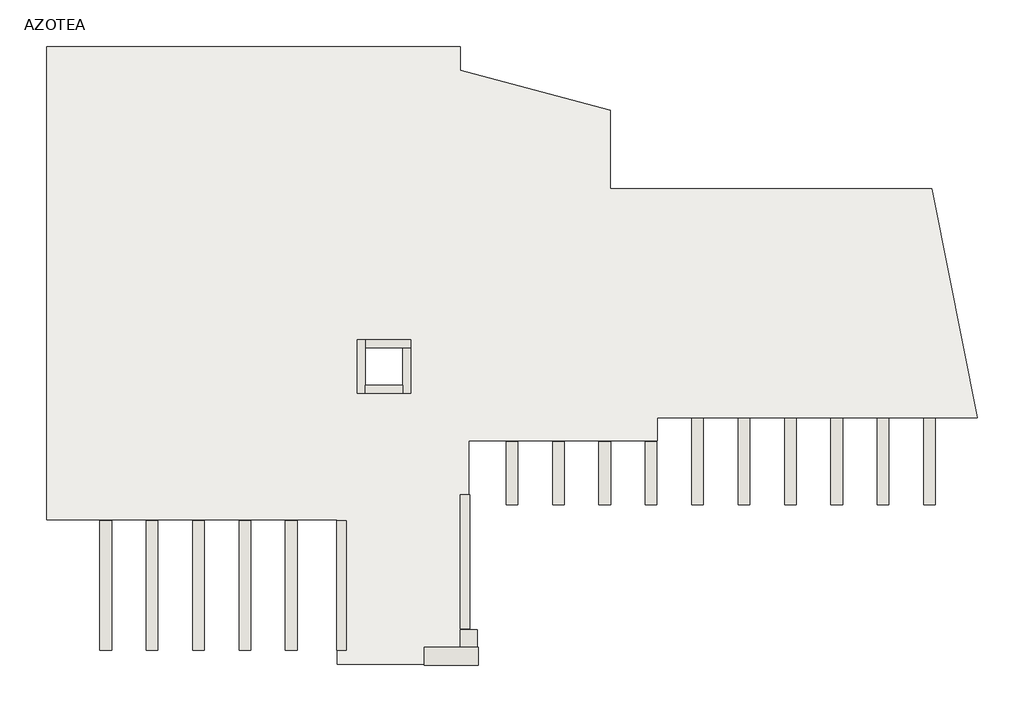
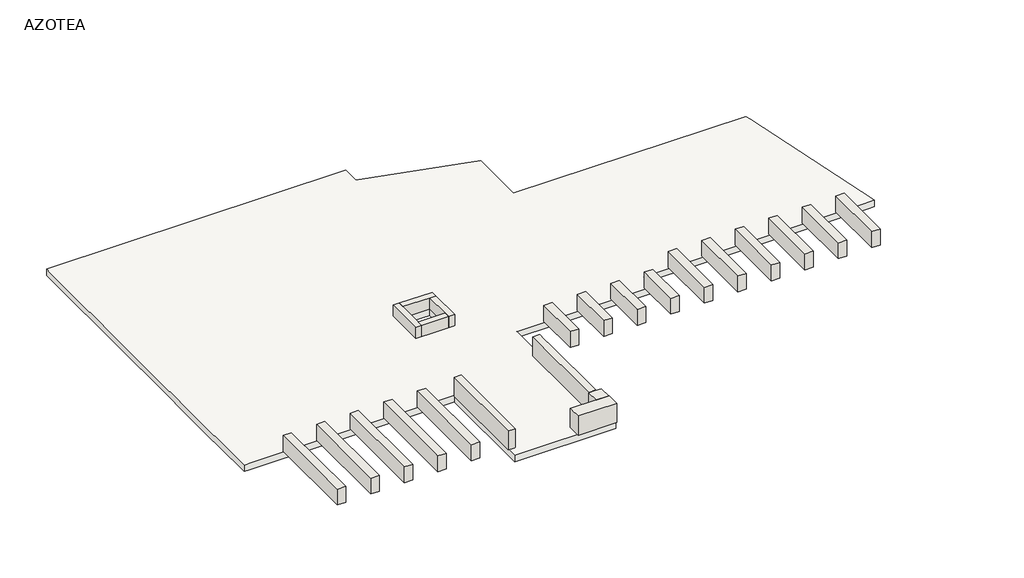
# One storey: 23 walls, 1 slab.
"""IFC4 building model written with IfcOpenShell, lengths in millimetres."""

from ifc_helpers import new_model, si_unit, frame, origin, place, context, project, spatial, polyline, outline, extrude, faceted_brep, element, save

model = new_model("IFC4")

# Units and contexts
model_context = context("Model", 3, world=origin())
ifc_project = project(units=[si_unit("LENGTHUNIT", "METRE", prefix="MILLI")], contexts=[model_context])

# Site, building, storey
site = spatial("IfcSite", under=ifc_project)
building = spatial("IfcBuilding", under=site)
storey = spatial("IfcBuildingStorey", under=building, Name="AZOTEA", Elevation=18000.0)

# Slab
placement = place(None, origin())
element("IfcSlab", 1, ObjectType="LOSA AZOTEA PENT HOUSE 2", at=placement, inside=storey, context=model_context, shape_type="Brep", body=[
    faceted_brep([(33983.8589874, 28041.0432167, 17800.0), (33983.8589874, 29334.010184, 17800.0), (33983.8589874, 29394.010184, 17800.0), (33983.8589874, 29804.010184, 17800.0), (33983.8589874, 31313.9733508, 17800.0), (33983.8589874, 31913.9733508, 17800.0), (33983.8589874, 37640.4026232, 17800.0), (33983.8589874, 38240.4026232, 17800.0), (34383.8589874, 38240.4026232, 17800.0), (42104.5059119, 38240.4026232, 17800.0), (42904.5059119, 38240.4026232, 17800.0), (42904.5059119, 37890.4026232, 17800.0), (42904.5059119, 37755.4451417, 17800.0), (42904.5059119, 37734.7346902, 17800.0), (45362.6697333, 37073.7353748, 17800.0), (46134.5059119, 36866.1889203, 17800.0), (46134.5059119, 36863.3152848, 17800.0), (46134.5059119, 35194.0104642, 17800.0), (46134.5059119, 35174.0104642, 17800.0), (49194.4822189, 35174.0104642, 17800.0), (50194.4822189, 35174.0104642, 17800.0), (53063.0024673, 35174.0104642, 17800.0), (53180.835534, 34585.6947595, 17800.0), (54050.4264196, 30244.0104696, 17800.0), (53887.2487256, 30244.0104696, 17800.0), (47150.8645778, 30244.0104696, 17800.0), (47150.8645778, 30224.0104696, 17800.0), (47150.8645778, 29904.010184, 17800.0), (47150.8645778, 29739.010184, 17800.0), (43109.5059119, 29739.010184, 17800.0), (43089.5059119, 29739.010184, 17800.0), (43089.5059119, 25674.0112971, 17800.0), (43269.5059119, 25674.0112971, 17800.0), (43269.5059119, 24924.0112971, 17800.0), (40254.5059119, 24924.0112971, 17800.0), (40254.5059119, 28021.0432167, 17800.0), (40254.5059119, 28041.0432167, 17800.0), (36344.5300226, 28041.0432167, 17800.0), (34143.8589874, 28041.0432167, 17800.0), (41657.0059119, 31743.9733508, 17800.0), (40857.0059119, 31743.9733508, 17800.0), (40857.0059119, 30943.9733508, 17800.0), (41657.0059119, 30943.9733508, 17800.0), (33983.8589874, 28041.0432167, 18000.0), (34143.8589874, 28041.0432167, 18000.0), (36344.5300226, 28041.0432167, 18000.0), (40254.5059119, 28041.0432167, 18000.0), (40254.5059119, 28021.0432167, 18000.0), (40254.5059119, 24924.0112971, 18000.0), (43269.5059119, 24924.0112971, 18000.0), (43269.5059119, 25674.0112971, 18000.0), (43089.5059119, 25674.0112971, 18000.0), (43089.5059119, 29739.010184, 18000.0), (43109.5059119, 29739.010184, 18000.0), (47150.8645778, 29739.010184, 18000.0), (47150.8645778, 29904.010184, 18000.0), (47150.8645778, 30224.0104696, 18000.0), (47150.8645778, 30244.0104696, 18000.0), (53887.2487256, 30244.0104696, 18000.0), (54050.4264196, 30244.0104696, 18000.0), (53095.0486808, 35014.0104642, 18000.0), (53063.0024673, 35174.0104642, 18000.0), (46134.5059119, 35174.0104642, 18000.0), (46134.5059119, 35194.0104642, 18000.0), (46134.5059119, 36866.1889203, 18000.0), (45974.5059119, 36909.2128593, 18000.0), (42904.5059119, 37734.7346902, 18000.0), (42904.5059119, 37755.4451417, 18000.0), (42904.5059119, 38080.4026232, 18000.0), (42904.5059119, 38240.4026232, 18000.0), (33983.8589874, 38240.4026232, 18000.0), (33983.8589874, 38080.4026232, 18000.0), (33983.8589874, 29804.010184, 18000.0), (33983.8589874, 29334.010184, 18000.0), (41657.0059119, 31743.9733508, 18000.0), (41657.0059119, 30943.9733508, 18000.0), (40857.0059119, 30943.9733508, 18000.0), (40857.0059119, 31743.9733508, 18000.0)], [[[0, 1, 2, 3, 4, 5, 6, 7, 8, 9, 10, 11, 12, 13, 14, 15, 16, 17, 18, 19, 20, 21, 22, 23, 24, 25, 26, 27, 28, 29, 30, 31, 32, 33, 34, 35, 36, 37, 38], [39, 40, 41, 42]], [[43, 44, 45, 46, 47, 48, 49, 50, 51, 52, 53, 54, 55, 56, 57, 58, 59, 60, 61, 62, 63, 64, 65, 66, 67, 68, 69, 70, 71, 72, 73], [74, 75, 76, 77]], [[7, 6, 5, 4, 3, 2, 1, 0, 43, 73, 72, 71, 70]], [[10, 9, 8, 7, 70, 69]], [[13, 12, 11, 10, 69, 68, 67, 66]], [[15, 14, 13, 66, 65, 64]], [[18, 17, 16, 15, 64, 63, 62]], [[21, 20, 19, 18, 62, 61]], [[23, 22, 21, 61, 60, 59]], [[25, 24, 23, 59, 58, 57]], [[30, 29, 28, 54, 53, 52]], [[31, 30, 52, 51]], [[36, 35, 34, 48, 47, 46]], [[0, 38, 37, 36, 46, 45, 44, 43]], [[28, 27, 26, 25, 57, 56, 55, 54]], [[40, 39, 74, 77]], [[41, 40, 77, 76]], [[42, 41, 76, 75]], [[39, 42, 75, 74]], [[32, 31, 51, 50]], [[33, 32, 50, 49]], [[34, 33, 49, 48]]]),
])

# Walls
element("IfcWall", 2, ObjectType="Pérgola madera", at=placement, inside=storey, context=model_context, shape_type="SweptSolid", body=[
    extrude(outline(polyline([(37384.1824497, 28021.0432167), (37384.1824497, 25224.0112971), (37134.1824497, 25224.0112971), (37134.1824497, 28021.0432167), (37384.1824497, 28021.0432167)])), frame((0.0, 0.0, 18050.0), z_axis=(0.0, 0.0, 1.0), x_axis=(1.0, 0.0, 0.0)), (0.0, 0.0, 1.0), 500.0),
])
element("IfcWall", 3, ObjectType="Pérgola madera", at=placement, inside=storey, context=model_context, shape_type="SweptSolid", body=[
    extrude(outline(polyline([(36384.1824497, 28021.0432167), (36384.1824497, 25224.0112971), (36134.1824497, 25224.0112971), (36134.1824497, 28021.0432167), (36384.1824497, 28021.0432167)])), frame((0.0, 0.0, 18050.0), z_axis=(0.0, 0.0, 1.0), x_axis=(1.0, 0.0, 0.0)), (0.0, 0.0, 1.0), 500.0),
])
element("IfcWall", 4, ObjectType="Pérgola madera", at=placement, inside=storey, context=model_context, shape_type="SweptSolid", body=[
    extrude(outline(polyline([(35384.1824497, 28021.0432167), (35384.1824497, 25224.0112971), (35134.1824497, 25224.0112971), (35134.1824497, 28021.0432167), (35384.1824497, 28021.0432167)])), frame((0.0, 0.0, 18050.0), z_axis=(0.0, 0.0, 1.0), x_axis=(1.0, 0.0, 0.0)), (0.0, 0.0, 1.0), 500.0),
])
element("IfcWall", 5, ObjectType="Pérgola madera", at=placement, inside=storey, context=model_context, shape_type="SweptSolid", body=[
    extrude(outline(polyline([(38384.1824497, 28021.0432167), (38384.1824497, 25224.0112971), (38134.1824497, 25224.0112971), (38134.1824497, 28021.0432167), (38384.1824497, 28021.0432167)])), frame((0.0, 0.0, 18050.0), z_axis=(0.0, 0.0, 1.0), x_axis=(1.0, 0.0, 0.0)), (0.0, 0.0, 1.0), 500.0),
])
element("IfcWall", 6, ObjectType="Pérgola madera", at=placement, inside=storey, context=model_context, shape_type="SweptSolid", body=[
    extrude(outline(polyline([(39384.1824497, 28021.0432167), (39384.1824497, 25224.0112971), (39134.1824497, 25224.0112971), (39134.1824497, 28021.0432167), (39384.1824497, 28021.0432167)])), frame((0.0, 0.0, 18050.0), z_axis=(0.0, 0.0, 1.0), x_axis=(1.0, 0.0, 0.0)), (0.0, 0.0, 1.0), 500.0),
])
element("IfcWall", 7, ObjectType="Pérgola madera", at=placement, inside=storey, context=model_context, shape_type="SweptSolid", body=[
    extrude(outline(polyline([(48142.4860813, 30224.0104696), (48142.4860813, 28363.2715476), (47892.4860813, 28363.2715476), (47892.4860813, 30224.0104696), (48142.4860813, 30224.0104696)])), frame((0.0, 0.0, 18050.0), z_axis=(0.0, 0.0, 1.0), x_axis=(1.0, 0.0, 0.0)), (0.0, 0.0, 1.0), 500.0),
])
element("IfcWall", 8, ObjectType="Pérgola madera", at=placement, inside=storey, context=model_context, shape_type="SweptSolid", body=[
    extrude(outline(polyline([(47142.4860813, 29724.010184), (47142.4860813, 28363.2715476), (46892.4860813, 28363.2715476), (46892.4860813, 29724.010184), (47142.4860813, 29724.010184)])), frame((0.0, 0.0, 18050.0), z_axis=(0.0, 0.0, 1.0), x_axis=(1.0, 0.0, 0.0)), (0.0, 0.0, 1.0), 500.0),
])
element("IfcWall", 9, ObjectType="Pérgola madera", at=placement, inside=storey, context=model_context, shape_type="SweptSolid", body=[
    extrude(outline(polyline([(46142.4860813, 29724.010184), (46142.4860813, 28363.2715476), (45892.4860813, 28363.2715476), (45892.4860813, 29724.010184), (46142.4860813, 29724.010184)])), frame((0.0, 0.0, 18050.0), z_axis=(0.0, 0.0, 1.0), x_axis=(1.0, 0.0, 0.0)), (0.0, 0.0, 1.0), 500.0),
])
element("IfcWall", 10, ObjectType="Pérgola madera", at=placement, inside=storey, context=model_context, shape_type="SweptSolid", body=[
    extrude(outline(polyline([(49142.4860813, 30224.0104696), (49142.4860813, 28363.2715476), (48892.4860813, 28363.2715476), (48892.4860813, 30224.0104696), (49142.4860813, 30224.0104696)])), frame((0.0, 0.0, 18050.0), z_axis=(0.0, 0.0, 1.0), x_axis=(1.0, 0.0, 0.0)), (0.0, 0.0, 1.0), 500.0),
])
element("IfcWall", 11, ObjectType="Pérgola madera", at=placement, inside=storey, context=model_context, shape_type="SweptSolid", body=[
    extrude(outline(polyline([(50142.4860813, 30224.0104696), (50142.4860813, 28363.2715476), (49892.4860813, 28363.2715476), (49892.4860813, 30224.0104696), (50142.4860813, 30224.0104696)])), frame((0.0, 0.0, 18050.0), z_axis=(0.0, 0.0, 1.0), x_axis=(1.0, 0.0, 0.0)), (0.0, 0.0, 1.0), 500.0),
])
element("IfcWall", 12, ObjectType="Pérgola madera", at=placement, inside=storey, context=model_context, shape_type="SweptSolid", body=[
    extrude(outline(polyline([(51142.4860813, 30224.0104696), (51142.4860813, 28363.2715476), (50892.4860813, 28363.2715476), (50892.4860813, 30224.0104696), (51142.4860813, 30224.0104696)])), frame((0.0, 0.0, 18050.0), z_axis=(0.0, 0.0, 1.0), x_axis=(1.0, 0.0, 0.0)), (0.0, 0.0, 1.0), 500.0),
])
element("IfcWall", 13, ObjectType="Pérgola madera", at=placement, inside=storey, context=model_context, shape_type="SweptSolid", body=[
    extrude(outline(polyline([(52142.4860813, 30224.0104696), (52142.4860813, 28363.2715476), (51892.4860813, 28363.2715476), (51892.4860813, 30224.0104696), (52142.4860813, 30224.0104696)])), frame((0.0, 0.0, 18050.0), z_axis=(0.0, 0.0, 1.0), x_axis=(1.0, 0.0, 0.0)), (0.0, 0.0, 1.0), 500.0),
])
element("IfcWall", 14, ObjectType="Pérgola madera", at=placement, inside=storey, context=model_context, shape_type="SweptSolid", body=[
    extrude(outline(polyline([(53141.3157015, 30224.0104696), (53141.3157015, 28363.2715476), (52891.3157015, 28363.2715476), (52891.3157015, 30224.0104696), (53141.3157015, 30224.0104696)])), frame((0.0, 0.0, 18050.0), z_axis=(0.0, 0.0, 1.0), x_axis=(1.0, 0.0, 0.0)), (0.0, 0.0, 1.0), 500.0),
])
element("IfcWall", 15, ObjectType="Pérgola madera", at=placement, inside=storey, context=model_context, shape_type="SweptSolid", body=[
    extrude(outline(polyline([(45142.4860813, 29724.010184), (45142.4860813, 28363.2715476), (44892.4860813, 28363.2715476), (44892.4860813, 29724.010184), (45142.4860813, 29724.010184)])), frame((0.0, 0.0, 18050.0), z_axis=(0.0, 0.0, 1.0), x_axis=(1.0, 0.0, 0.0)), (0.0, 0.0, 1.0), 500.0),
])
element("IfcWall", 16, ObjectType="Pérgola madera", at=placement, inside=storey, context=model_context, shape_type="SweptSolid", body=[
    extrude(outline(polyline([(44142.4860813, 29724.010184), (44142.4860813, 28363.2715476), (43892.4860813, 28363.2715476), (43892.4860813, 29724.010184), (44142.4860813, 29724.010184)])), frame((0.0, 0.0, 18050.0), z_axis=(0.0, 0.0, 1.0), x_axis=(1.0, 0.0, 0.0)), (0.0, 0.0, 1.0), 500.0),
])
element("IfcWall", 17, ObjectType="Muro Concreto - 17 cm + enjarre (21)", at=placement, inside=storey, context=model_context, shape_type="Brep", body=[
    faceted_brep([(42899.5059119, 28583.8772196, 18000.0), (42899.5059119, 28524.010184, 18000.0), (42899.5059119, 25694.0112971, 18000.0), (42899.5059119, 25694.0112971, 18600.0), (42899.5059119, 28583.8772196, 18600.0), (43109.5059119, 28583.8772196, 18000.0), (43109.5059119, 28583.8772196, 18600.0), (43109.5059119, 28363.2715476, 18600.0), (43109.5059119, 28043.2715476, 18600.0), (43109.5059119, 25694.0112971, 18600.0), (43109.5059119, 25694.0112971, 18000.0), (43109.5059119, 28524.010184, 18000.0)], [[[0, 1, 2, 3, 4]], [[5, 6, 7, 8, 9, 10, 11]], [[2, 1, 0, 5, 11, 10]], [[4, 3, 9, 8, 7, 6]], [[0, 4, 6, 5]], [[3, 2, 10, 9]]]),
])
element("IfcWall", 18, ObjectType="Muro Concreto - 17 cm + enjarre (21)", at=placement, inside=storey, context=model_context, shape_type="Brep", body=[
    faceted_brep([(40234.5059119, 28021.0432167, 18000.0), (40234.5059119, 25224.0112971, 18000.0), (40234.5059119, 25224.0112971, 18600.0), (40234.5059119, 28021.0432167, 18600.0), (40444.5059119, 28021.0432167, 18000.0), (40444.5059119, 28021.0432167, 18600.0), (40444.5059119, 25224.0112971, 18600.0), (40444.5059119, 25224.0112971, 18000.0), (40254.5059119, 28021.0432167, 18000.0)], [[[0, 1, 2, 3]], [[4, 5, 6, 7]], [[1, 0, 8, 4, 7]], [[3, 2, 6, 5]], [[2, 1, 7, 6]], [[0, 3, 5, 4, 8]]]),
])
element("IfcWall", 19, ObjectType="Muro block 18cms_ext", at=placement, inside=storey, context=model_context, shape_type="Brep", body=[
    faceted_brep([(40677.0059119, 30763.9733508, 18350.0), (40677.0059119, 31923.9733508, 18350.0), (40677.0059119, 31923.9733508, 18000.0), (40677.0059119, 30763.9733508, 18000.0), (40857.0059119, 31923.9733508, 18350.0), (40857.0059119, 31743.9733508, 18350.0), (40857.0059119, 30943.9733508, 18350.0), (40857.0059119, 30763.9733508, 18350.0), (40857.0059119, 30763.9733508, 18000.0), (40857.0059119, 30943.9733508, 18000.0), (40857.0059119, 31743.9733508, 18000.0), (40857.0059119, 31923.9733508, 18000.0)], [[[0, 1, 2, 3]], [[4, 5, 6, 7, 8, 9, 10, 11]], [[1, 0, 7, 6, 5, 4]], [[1, 4, 11, 2]], [[7, 0, 3, 8]], [[3, 2, 11, 10, 9, 8]]]),
])
element("IfcWall", 20, ObjectType="Muro block 18cms_ext", at=placement, inside=storey, context=model_context, shape_type="Brep", body=[
    faceted_brep([(40857.0059119, 31923.9733508, 18350.0), (41837.0059119, 31923.9733508, 18350.0), (41837.0059119, 31923.9733508, 18000.0), (40857.0059119, 31923.9733508, 18000.0), (41837.0059119, 31743.9733508, 18350.0), (41657.0059119, 31743.9733508, 18350.0), (40857.0059119, 31743.9733508, 18350.0), (40857.0059119, 31743.9733508, 18000.0), (41657.0059119, 31743.9733508, 18000.0), (41837.0059119, 31743.9733508, 18000.0)], [[[0, 1, 2, 3]], [[4, 5, 6, 7, 8, 9]], [[1, 0, 6, 5, 4]], [[6, 0, 3, 7]], [[1, 4, 9, 2]], [[3, 2, 9, 8, 7]]]),
])
element("IfcWall", 21, ObjectType="Muro block 18cms_ext", at=placement, inside=storey, context=model_context, shape_type="Brep", body=[
    faceted_brep([(41837.0059119, 31743.9733508, 18350.0), (41837.0059119, 30763.9733508, 18350.0), (41837.0059119, 30763.9733508, 18000.0), (41837.0059119, 31743.9733508, 18000.0), (41657.0059119, 30763.9733508, 18350.0), (41657.0059119, 30943.9733508, 18350.0), (41657.0059119, 31743.9733508, 18350.0), (41657.0059119, 31743.9733508, 18000.0), (41657.0059119, 30943.9733508, 18000.0), (41657.0059119, 30763.9733508, 18000.0)], [[[0, 1, 2, 3]], [[4, 5, 6, 7, 8, 9]], [[1, 0, 6, 5, 4]], [[6, 0, 3, 7]], [[1, 4, 9, 2]], [[3, 2, 9, 8, 7]]]),
])
element("IfcWall", 22, ObjectType="Muro block 18cms_ext", at=placement, inside=storey, context=model_context, shape_type="SweptSolid", body=[
    extrude(outline(polyline([(41657.0059119, 30763.9733508), (40857.0059119, 30763.9733508), (40857.0059119, 30943.9733508), (41657.0059119, 30943.9733508), (41657.0059119, 30763.9733508)])), frame((0.0, 0.0, 18000.0), z_axis=(0.0, 0.0, 1.0), x_axis=(1.0, 0.0, 0.0)), (0.0, 0.0, 1.0), 350.0),
])
element("IfcWall", 23, ObjectType="Muro sobre col 39", at=placement, inside=storey, context=model_context, shape_type="Brep", body=[
    faceted_brep([(42129.5059119, 24904.0112971, 18000.0), (43289.5059119, 24904.0112971, 18000.0), (43289.5059119, 24904.0112971, 18600.0), (42129.5059119, 24904.0112971, 18600.0), (42129.5059119, 25294.0112971, 18000.0), (42129.5059119, 25294.0112971, 18600.0), (42899.5059119, 25294.0112971, 18600.0), (43269.5059119, 25294.0112971, 18600.0), (43289.5059119, 25294.0112971, 18600.0), (43289.5059119, 25294.0112971, 18000.0), (43269.5059119, 25294.0112971, 18000.0), (42899.5059119, 25294.0112971, 18000.0), (42129.5059119, 25224.0112971, 18000.0), (43289.5059119, 24924.0112971, 18000.0), (42129.5059119, 25224.0112971, 18600.0)], [[[0, 1, 2, 3]], [[4, 5, 6, 7, 8, 9, 10, 11]], [[1, 0, 12, 4, 11, 10, 9, 13]], [[3, 2, 8, 7, 6, 5, 14]], [[0, 3, 14, 5, 4, 12]], [[2, 1, 13, 9, 8]]]),
])
element("IfcWall", 24, ObjectType="Muro sobre col 39", at=placement, inside=storey, context=model_context, shape_type="Brep", body=[
    faceted_brep([(42899.5059119, 25674.0112971, 18000.0), (42899.5059119, 25294.0112971, 18000.0), (42899.5059119, 25294.0112971, 18600.0), (42899.5059119, 25674.0112971, 18600.0), (42919.5059119, 25674.0112971, 18000.0), (43269.5059119, 25674.0112971, 18000.0), (43269.5059119, 25294.0112971, 18000.0), (43269.5059119, 25294.0112971, 18600.0), (43269.5059119, 25674.0112971, 18600.0), (43109.5059119, 25674.0112971, 18600.0)], [[[0, 1, 2, 3]], [[1, 0, 4, 5, 6]], [[3, 2, 7, 8, 9]], [[2, 1, 6, 7]], [[0, 3, 9, 8, 5, 4]], [[6, 5, 8, 7]]]),
])

save(model, "model.ifc")
